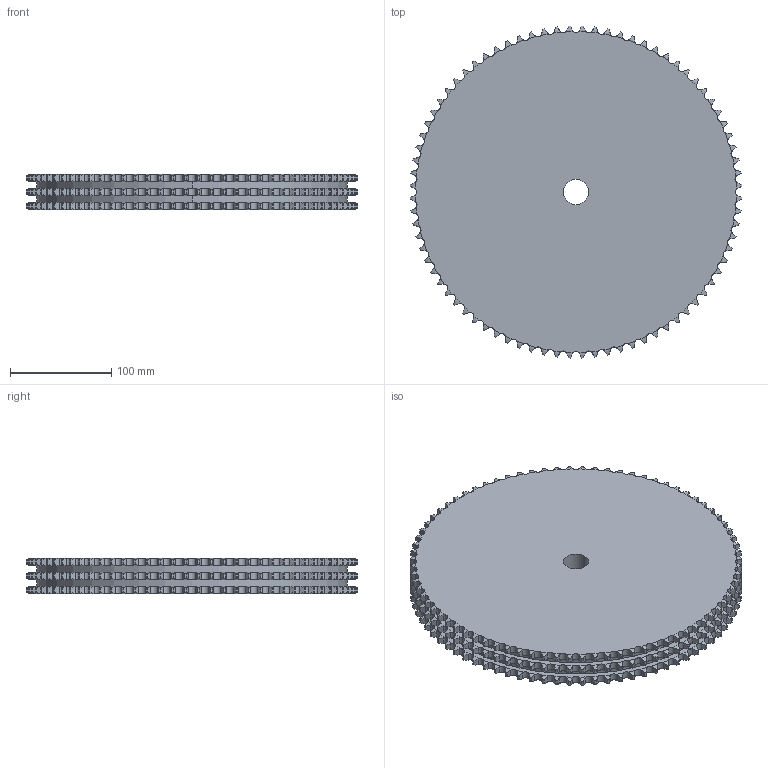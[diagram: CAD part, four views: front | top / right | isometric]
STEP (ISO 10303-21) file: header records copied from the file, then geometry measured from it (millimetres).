
FILE_DESCRIPTION((''),'2;1');
FILE_NAME('500-203-0080_PRT','2021-02-12T',('Brieden'),('Brieden'),'PRO/ENGINEER BY PARAMETRIC TECHNOLOGY CORPORATION, 2010160','PRO/ENGINEER BY PARAMETRIC TECHNOLOGY CORPORATION, 2010160','');
FILE_SCHEMA(('AUTOMOTIVE_DESIGN { 1 0 10303 214 1 1 1 1 }'));
Length unit declared in the file: millimetre
Products named in the file (1): 500-203-0080_PRT
Bounding box: 328.5 x 328.5 x 34.9 mm (x, y, z)
Volume: 2713262.9 mm3; surface area: 233649.2 mm2
Topology: 1 solids, 1 shells, 1452 faces, 4338 edges, 2892 vertices
Faces by surface type: cylinder 966, torus 480, plane 6
Entity records: 71813 total; most frequent: CARTESIAN_POINT 22016, ORIENTED_EDGE 8676, DIRECTION 6774, PRESENTATION_STYLE_ASSIGNMENT 4339, STYLED_ITEM 4339, CURVE_STYLE 4338, EDGE_CURVE 4338, AXIS2_PLACEMENT_3D 2904
